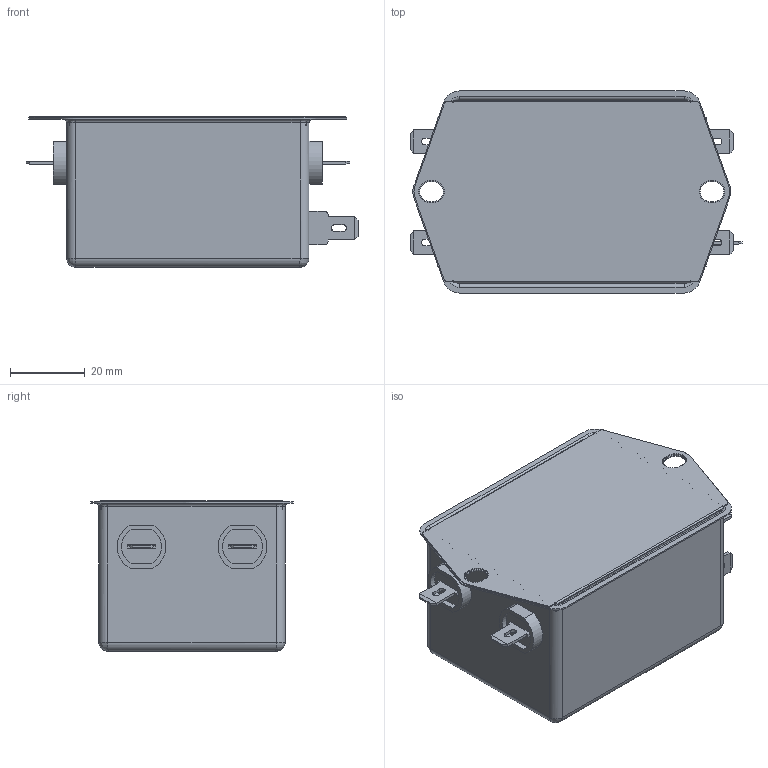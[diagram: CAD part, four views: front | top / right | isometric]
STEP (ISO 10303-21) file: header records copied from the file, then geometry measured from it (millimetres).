
FILE_DESCRIPTION((''),'2;1');
FILE_NAME('K:\Development\Product_FN\A Redesign FN2000_FN600\FN2030\3D FILE LIBRARY\FN2030-20-06.stp','2012-08-14T09:40:16',('Fiona.chen'),(''),'Autodesk Inventor 2010','Autodesk Inventor 2010','');
FILE_SCHEMA(('AUTOMOTIVE_DESIGN { 1 0 10303 214 1 1 1 1 }'));
Length unit declared in the file: millimetre
Products named in the file (1): FN2030-16-06-FN2080-3-06_包覆面提取_1
Bounding box: 88.75 x 54 x 40.3 mm (x, y, z)
Volume: 131468.2 mm3; surface area: 19285.4 mm2
Topology: 1 solids, 5 shells, 460 faces, 1272 edges, 816 vertices
Faces by surface type: plane 302, cylinder 138, bspline 12, torus 4, cone 4
Entity records: 15463 total; most frequent: CARTESIAN_POINT 3186, ORIENTED_EDGE 2536, DIRECTION 2438, EDGE_CURVE 1268, VECTOR 928, LINE 928, VERTEX_POINT 816, AXIS2_PLACEMENT_3D 755
